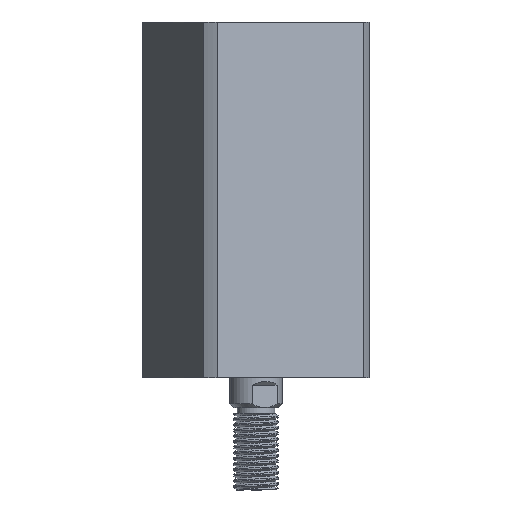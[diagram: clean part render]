
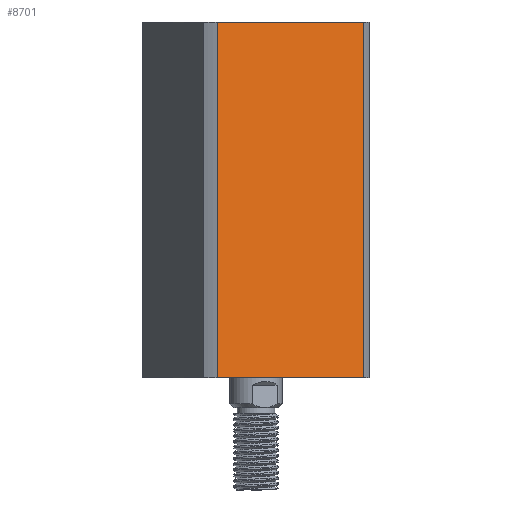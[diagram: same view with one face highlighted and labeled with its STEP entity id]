
A CAD part, left-side view. The second image highlights one B-rep face of the part: STEP entity #8701.
In plain terms, the highlighted planar face has unit normal (-0.924, -0.383, 0) as drawn and (1, 0, 0) by its records, which use the part's own axes.
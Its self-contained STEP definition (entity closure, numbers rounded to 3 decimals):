
#448 = VECTOR ( 'NONE', #5175, 1000. ) ;
#514 = CARTESIAN_POINT ( 'NONE',  ( 24., -21.166, 95. ) ) ;
#702 = LINE ( 'NONE', #9310, #448 ) ;
#768 = EDGE_CURVE ( 'NONE', #7301, #3524, #3073, .T. ) ;
#828 = EDGE_CURVE ( 'NONE', #3524, #4371, #7517, .T. ) ;
#858 = VECTOR ( 'NONE', #1223, 1000. ) ;
#1111 = DIRECTION ( 'NONE',  ( 0., 1., 0. ) ) ;
#1223 = DIRECTION ( 'NONE',  ( 0., 0., 1. ) ) ;
#2779 = CARTESIAN_POINT ( 'NONE',  ( 24., 21.166, -205. ) ) ;
#2810 = VECTOR ( 'NONE', #1111, 1000. ) ;
#3056 = ORIENTED_EDGE ( 'NONE', *, *, #828, .F. ) ;
#3073 = LINE ( 'NONE', #4950, #858 ) ;
#3325 = ORIENTED_EDGE ( 'NONE', *, *, #768, .F. ) ;
#3524 = VERTEX_POINT ( 'NONE', #514 ) ;
#4371 = VERTEX_POINT ( 'NONE', #4539 ) ;
#4382 = LINE ( 'NONE', #2779, #8821 ) ;
#4539 = CARTESIAN_POINT ( 'NONE',  ( 24., 21.166, 95. ) ) ;
#4575 = DIRECTION ( 'NONE',  ( 0., -1., 0. ) ) ;
#4738 = CARTESIAN_POINT ( 'NONE',  ( 24., -21.166, 0. ) ) ;
#4950 = CARTESIAN_POINT ( 'NONE',  ( 24., -21.166, -205. ) ) ;
#5028 = EDGE_LOOP ( 'NONE', ( #3325, #5296, #7494, #3056 ) ) ;
#5057 = EDGE_CURVE ( 'NONE', #7301, #7390, #702, .T. ) ;
#5175 = DIRECTION ( 'NONE',  ( 0., 1., 0. ) ) ;
#5190 = EDGE_CURVE ( 'NONE', #4371, #7390, #4382, .T. ) ;
#5296 = ORIENTED_EDGE ( 'NONE', *, *, #5057, .T. ) ;
#7027 = CARTESIAN_POINT ( 'NONE',  ( 24., 24., 95. ) ) ;
#7116 = AXIS2_PLACEMENT_3D ( 'NONE', #7027, #9576, #4575 ) ;
#7301 = VERTEX_POINT ( 'NONE', #4738 ) ;
#7390 = VERTEX_POINT ( 'NONE', #7591 ) ;
#7480 = FACE_OUTER_BOUND ( 'NONE', #5028, .T. ) ;
#7494 = ORIENTED_EDGE ( 'NONE', *, *, #5190, .F. ) ;
#7517 = LINE ( 'NONE', #8453, #2810 ) ;
#7591 = CARTESIAN_POINT ( 'NONE',  ( 24., 21.166, 0. ) ) ;
#7782 = DIRECTION ( 'NONE',  ( 0., 0., -1. ) ) ;
#8453 = CARTESIAN_POINT ( 'NONE',  ( 24., 24., 95. ) ) ;
#8701 = ADVANCED_FACE ( 'NONE', ( #7480 ), #8739, .F. ) ;
#8739 = PLANE ( 'NONE',  #7116 ) ;
#8821 = VECTOR ( 'NONE', #7782, 1000. ) ;
#9310 = CARTESIAN_POINT ( 'NONE',  ( 24., 24., 0. ) ) ;
#9576 = DIRECTION ( 'NONE',  ( -1., 0., 0. ) ) ;
